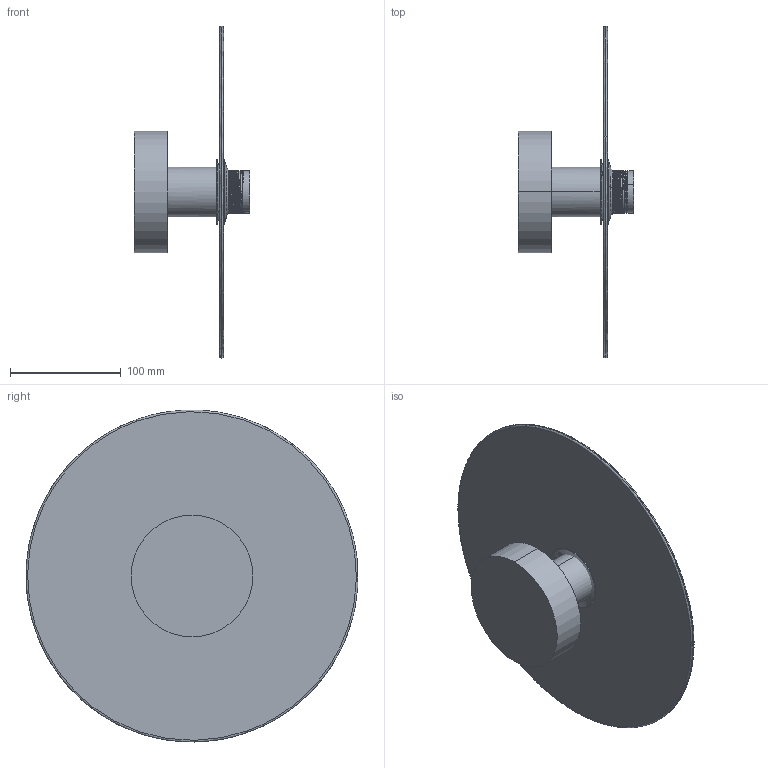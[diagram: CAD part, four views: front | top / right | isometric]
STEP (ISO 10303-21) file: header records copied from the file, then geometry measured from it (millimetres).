
FILE_DESCRIPTION (( 'STEP AP214' ), '1' );
FILE_NAME ('A1096-35.STEP', '2026-06-09T10:32:49', ( '' ), ( '' ), 'SwSTEP 2.0', 'SolidWorks 2023', '' );
FILE_SCHEMA (( 'AUTOMOTIVE_DESIGN' ));
Length unit declared in the file: inch
Products named in the file (1): A1096-35
Bounding box: 104.34 x 299.83 x 299.96 mm (x, y, z)
Volume: 575795.7 mm3; surface area: 208899.6 mm2
Topology: 4 solids, 4 shells, 209 faces, 566 edges, 367 vertices
Faces by surface type: bspline 203, plane 4, cylinder 2
Entity records: 28530 total; most frequent: CARTESIAN_POINT 25262, ORIENTED_EDGE 1132, EDGE_CURVE 566, B_SPLINE_CURVE_WITH_KNOTS 368, VERTEX_POINT 367, EDGE_LOOP 221, FACE_OUTER_BOUND 209, ADVANCED_FACE 209
